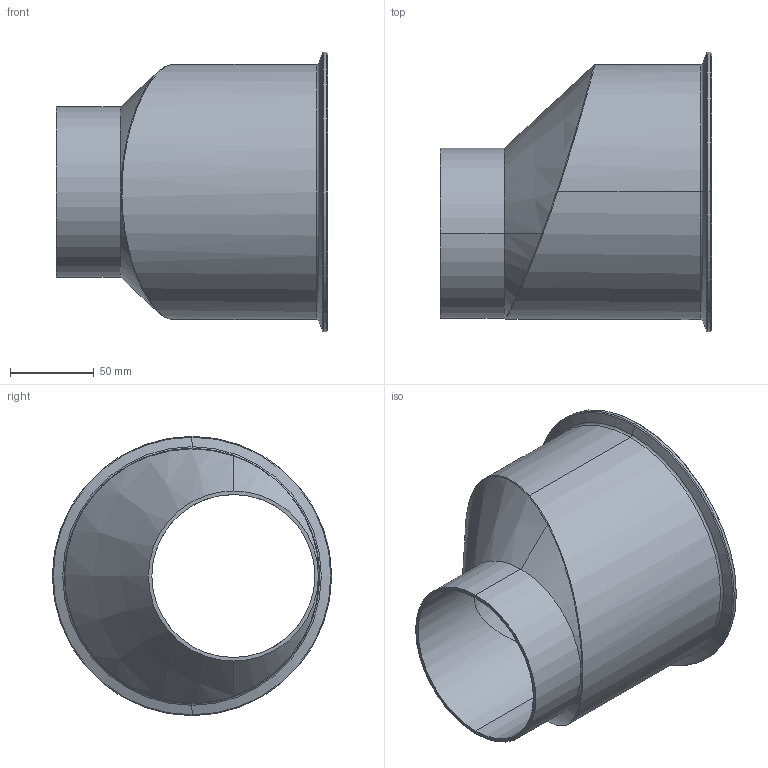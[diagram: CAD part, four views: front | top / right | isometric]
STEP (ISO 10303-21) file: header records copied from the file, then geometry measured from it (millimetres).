
FILE_DESCRIPTION (( 'STEP AP214' ), '1' );
FILE_NAME ('TE32SCW6L6.0x4.0-...STEP', '2016-06-02T10:58:46', ( 'eran' ), ( '' ), 'SwSTEP 2.0', 'SolidWorks 2016', '' );
FILE_SCHEMA (( 'AUTOMOTIVE_DESIGN' ));
Length unit declared in the file: millimetre
Products named in the file (1): TE32SCW6L6.0x4.0-..
Bounding box: 161.97 x 166.88 x 166.88 mm (x, y, z)
Volume: 608451.4 mm3; surface area: 142388.5 mm2
Topology: 1 solids, 1 shells, 43 faces, 96 edges, 54 vertices
Faces by surface type: cone 14, torus 12, cylinder 10, bspline 4, plane 3
Entity records: 2612 total; most frequent: CARTESIAN_POINT 1166, DIRECTION 213, ORIENTED_EDGE 188, AXIS2_PLACEMENT_3D 95, EDGE_CURVE 94, CIRCLE 55, VERTEX_POINT 54, EDGE_LOOP 46
